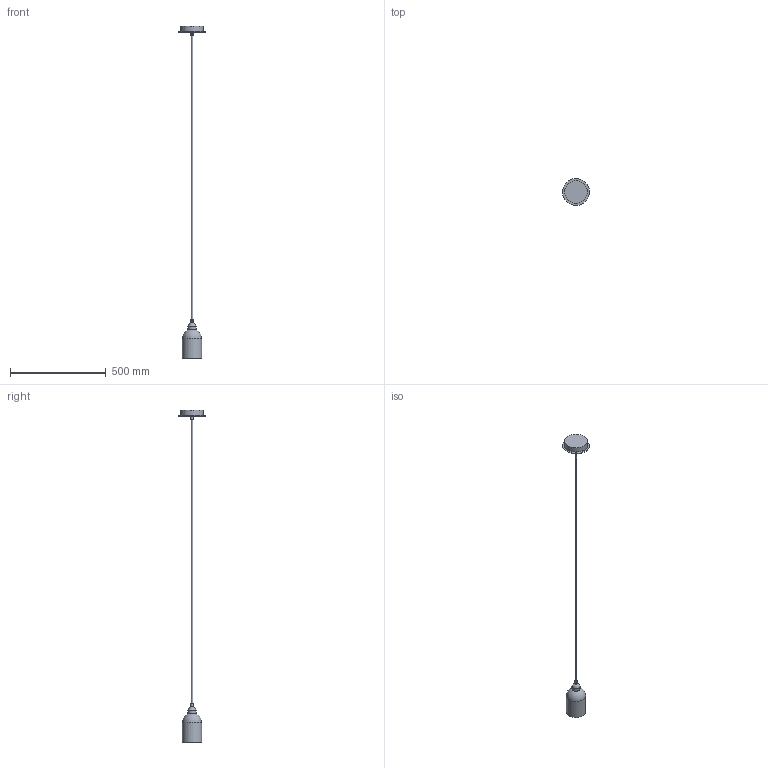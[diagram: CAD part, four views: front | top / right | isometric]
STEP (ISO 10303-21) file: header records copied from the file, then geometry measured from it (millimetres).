
FILE_DESCRIPTION(/* description */ (''),/* implementation_level */ '2;1');
FILE_NAME(/* name */ 'T:\B161 Odyssey Single Pendant SM\Pliki bryłowe handlowe\B161 Odyssey Single SM 3D files_na stronę\B161 Odyssey Single SM.stp',/* time_stamp */ '2022-02-02T14:32:51+01:00',/* author */ ('Mariusz Awariusz'),/* organization */ (''),/* preprocessor_version */ 'ST-DEVELOPER v18.1',/* originating_system */ 'Autodesk Inventor 2022',/* authorisation */ '');
FILE_SCHEMA (('AUTOMOTIVE_DESIGN { 1 0 10303 214 3 1 1 }','FEATURE_BASED_PROCESS_PLANNING'));
Length unit declared in the file: millimetre
Products named in the file (1): B161 Odyssey Single Pendant SM CE v4_na potrzeby plików 3D_2_jako
 część_korpusy bryłowe
Bounding box: 139.78 x 139.78 x 1732.05 mm (x, y, z)
Volume: 601226.9 mm3; surface area: 198669.1 mm2
Topology: 10 solids, 10 shells, 45 faces, 67 edges, 41 vertices
Faces by surface type: plane 19, cylinder 12, cone 10, sphere 2, bspline 1, torus 1
Full cylindrical faces by diameter (mm): 4 x2, 7 x1, 10 x1, 13 x2, 30 x1, 42 x1, 94 x1, 100 x1, 120 x1, 140 x1
Entity records: 1056 total; most frequent: DIRECTION 202, CARTESIAN_POINT 180, ORIENTED_EDGE 134, AXIS2_PLACEMENT_3D 90, EDGE_CURVE 67, EDGE_LOOP 46, FACE_OUTER_BOUND 45, CIRCLE 45
